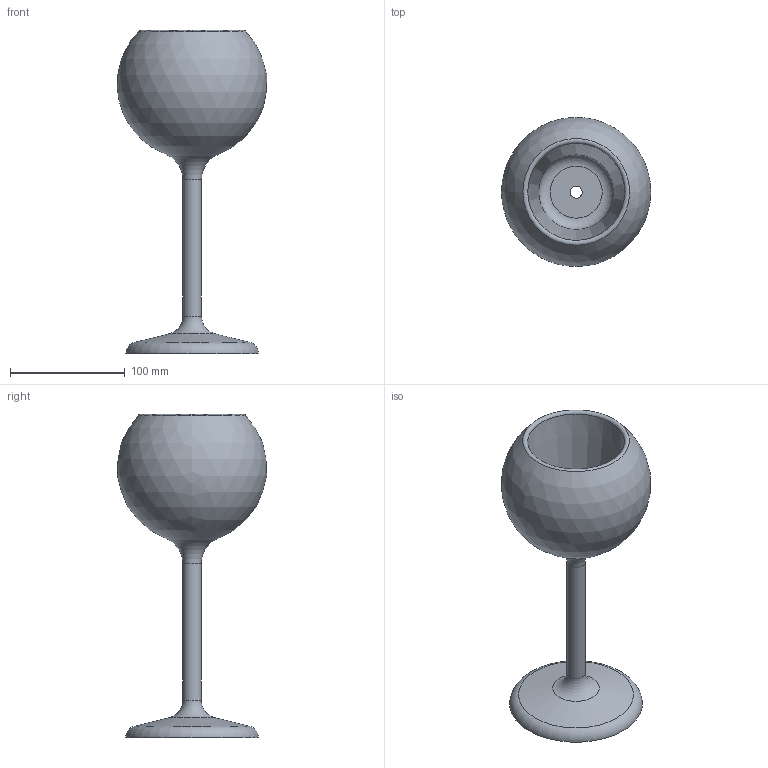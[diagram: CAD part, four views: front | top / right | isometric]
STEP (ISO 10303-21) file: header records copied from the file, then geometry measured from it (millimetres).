
FILE_DESCRIPTION(/* description */ (''),/* implementation_level */ '2;1');
FILE_NAME(/* name */ 'C:\Users\STEFANO\Desktop\3D SEM\0811-00 - GLO TAVOLO MINI F.E\Parte1.stp',/* time_stamp */ '2019-09-25T09:27:59+02:00',/* author */ ('STEFANO'),/* organization */ (''),/* preprocessor_version */ 'ST-DEVELOPER v17',/* originating_system */ 'Autodesk Inventor 2019',/* authorisation */ '');
FILE_SCHEMA (('AUTOMOTIVE_DESIGN { 1 0 10303 214 3 1 1 }'));
Length unit declared in the file: millimetre
Products named in the file (1): Parte1
Bounding box: 130.12 x 129.96 x 281.38 mm (x, y, z)
Volume: 174866.9 mm3; surface area: 175654.8 mm2
Topology: 1 solids, 1 shells, 22 faces, 76 edges, 57 vertices
Faces by surface type: torus 10, cone 4, cylinder 3, plane 3, sphere 2
Full cylindrical faces by diameter (mm): 10.5 x1, 12.079 x1, 16.079 x1
Entity records: 944 total; most frequent: DIRECTION 191, CARTESIAN_POINT 156, ORIENTED_EDGE 152, AXIS2_PLACEMENT_3D 92, EDGE_CURVE 76, CIRCLE 69, VERTEX_POINT 57, EDGE_LOOP 25
